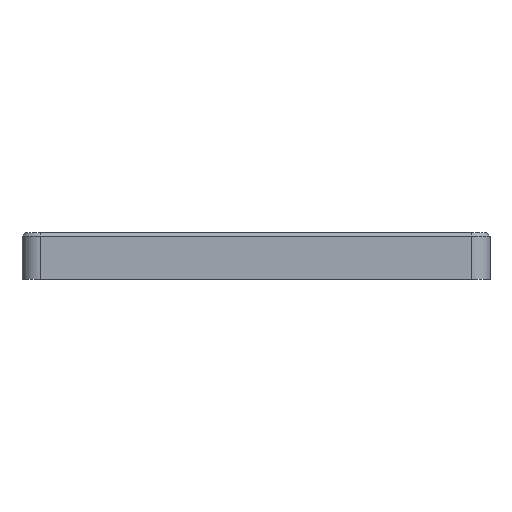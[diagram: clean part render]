
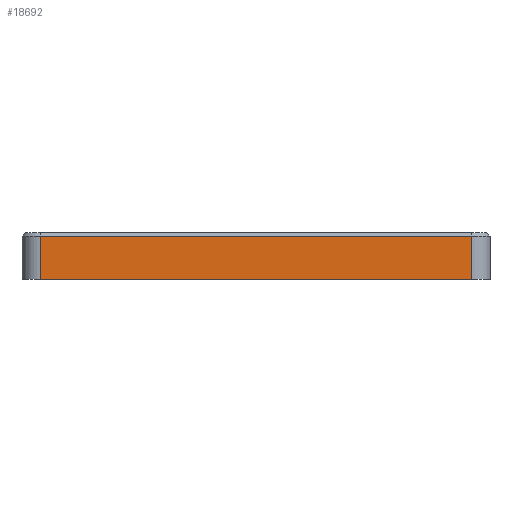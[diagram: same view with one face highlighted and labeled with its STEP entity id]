
A CAD part, front view. The second image highlights one B-rep face of the part: STEP entity #18692.
In plain terms, the highlighted planar face has unit normal (0, -1, 0).
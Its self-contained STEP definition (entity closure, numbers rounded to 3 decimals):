
#6688 = PLANE('',#6689);
#6689 = AXIS2_PLACEMENT_3D('',#6690,#6691,#6692);
#6690 = CARTESIAN_POINT('',(-92.,-94.25,54.25));
#6691 = DIRECTION('',(0.,0.707,-0.707));
#6692 = DIRECTION('',(-1.,-0.,-0.));
#11158 = PLANE('',#11159);
#11159 = AXIS2_PLACEMENT_3D('',#11160,#11161,#11162);
#11160 = CARTESIAN_POINT('',(0.,0.,35.));
#11161 = DIRECTION('',(0.,0.,1.));
#11162 = DIRECTION('',(1.,0.,-0.));
#12776 = VERTEX_POINT('',#12777);
#12777 = CARTESIAN_POINT('',(-92.,-95.,53.5));
#12796 = EDGE_CURVE('',#12776,#12797,#12799,.T.);
#12797 = VERTEX_POINT('',#12798);
#12798 = CARTESIAN_POINT('',(92.,-95.,53.5));
#12799 = SURFACE_CURVE('',#12800,(#12804,#12811),.PCURVE_S1.);
#12800 = LINE('',#12801,#12802);
#12801 = CARTESIAN_POINT('',(-92.,-95.,53.5));
#12802 = VECTOR('',#12803,1.);
#12803 = DIRECTION('',(1.,0.,0.));
#12804 = PCURVE('',#6688,#12805);
#12805 = DEFINITIONAL_REPRESENTATION('',(#12806),#12810);
#12806 = LINE('',#12807,#12808);
#12807 = CARTESIAN_POINT('',(-0.,-1.061));
#12808 = VECTOR('',#12809,1.);
#12809 = DIRECTION('',(-1.,0.));
#12810 = ( GEOMETRIC_REPRESENTATION_CONTEXT(2) 
PARAMETRIC_REPRESENTATION_CONTEXT() REPRESENTATION_CONTEXT('2D SPACE',''
  ) );
#12811 = PCURVE('',#12812,#12817);
#12812 = PLANE('',#12813);
#12813 = AXIS2_PLACEMENT_3D('',#12814,#12815,#12816);
#12814 = CARTESIAN_POINT('',(-100.,-95.,35.));
#12815 = DIRECTION('',(0.,1.,0.));
#12816 = DIRECTION('',(1.,0.,0.));
#12817 = DEFINITIONAL_REPRESENTATION('',(#12818),#12822);
#12818 = LINE('',#12819,#12820);
#12819 = CARTESIAN_POINT('',(8.,-18.5));
#12820 = VECTOR('',#12821,1.);
#12821 = DIRECTION('',(1.,0.));
#12822 = ( GEOMETRIC_REPRESENTATION_CONTEXT(2) 
PARAMETRIC_REPRESENTATION_CONTEXT() REPRESENTATION_CONTEXT('2D SPACE',''
  ) );
#12883 = CYLINDRICAL_SURFACE('',#12884,8.);
#12884 = AXIS2_PLACEMENT_3D('',#12885,#12886,#12887);
#12885 = CARTESIAN_POINT('',(-92.,-87.,35.));
#12886 = DIRECTION('',(0.,0.,1.));
#12887 = DIRECTION('',(0.,-1.,0.));
#12918 = CYLINDRICAL_SURFACE('',#12919,8.);
#12919 = AXIS2_PLACEMENT_3D('',#12920,#12921,#12922);
#12920 = CARTESIAN_POINT('',(92.,-87.,35.));
#12921 = DIRECTION('',(0.,0.,1.));
#12922 = DIRECTION('',(0.,-1.,0.));
#18377 = EDGE_CURVE('',#18378,#18380,#18382,.T.);
#18378 = VERTEX_POINT('',#18379);
#18379 = CARTESIAN_POINT('',(-92.,-95.,35.));
#18380 = VERTEX_POINT('',#18381);
#18381 = CARTESIAN_POINT('',(92.,-95.,35.));
#18382 = SURFACE_CURVE('',#18383,(#18387,#18394),.PCURVE_S1.);
#18383 = LINE('',#18384,#18385);
#18384 = CARTESIAN_POINT('',(-100.,-95.,35.));
#18385 = VECTOR('',#18386,1.);
#18386 = DIRECTION('',(1.,0.,0.));
#18387 = PCURVE('',#11158,#18388);
#18388 = DEFINITIONAL_REPRESENTATION('',(#18389),#18393);
#18389 = LINE('',#18390,#18391);
#18390 = CARTESIAN_POINT('',(-100.,-95.));
#18391 = VECTOR('',#18392,1.);
#18392 = DIRECTION('',(1.,0.));
#18393 = ( GEOMETRIC_REPRESENTATION_CONTEXT(2) 
PARAMETRIC_REPRESENTATION_CONTEXT() REPRESENTATION_CONTEXT('2D SPACE',''
  ) );
#18394 = PCURVE('',#12812,#18395);
#18395 = DEFINITIONAL_REPRESENTATION('',(#18396),#18400);
#18396 = LINE('',#18397,#18398);
#18397 = CARTESIAN_POINT('',(0.,0.));
#18398 = VECTOR('',#18399,1.);
#18399 = DIRECTION('',(1.,0.));
#18400 = ( GEOMETRIC_REPRESENTATION_CONTEXT(2) 
PARAMETRIC_REPRESENTATION_CONTEXT() REPRESENTATION_CONTEXT('2D SPACE',''
  ) );
#18692 = ADVANCED_FACE('',(#18693),#12812,.F.);
#18693 = FACE_BOUND('',#18694,.F.);
#18694 = EDGE_LOOP('',(#18695,#18716,#18717,#18738));
#18695 = ORIENTED_EDGE('',*,*,#18696,.T.);
#18696 = EDGE_CURVE('',#18378,#12776,#18697,.T.);
#18697 = SURFACE_CURVE('',#18698,(#18702,#18709),.PCURVE_S1.);
#18698 = LINE('',#18699,#18700);
#18699 = CARTESIAN_POINT('',(-92.,-95.,35.));
#18700 = VECTOR('',#18701,1.);
#18701 = DIRECTION('',(0.,0.,1.));
#18702 = PCURVE('',#12812,#18703);
#18703 = DEFINITIONAL_REPRESENTATION('',(#18704),#18708);
#18704 = LINE('',#18705,#18706);
#18705 = CARTESIAN_POINT('',(8.,0.));
#18706 = VECTOR('',#18707,1.);
#18707 = DIRECTION('',(0.,-1.));
#18708 = ( GEOMETRIC_REPRESENTATION_CONTEXT(2) 
PARAMETRIC_REPRESENTATION_CONTEXT() REPRESENTATION_CONTEXT('2D SPACE',''
  ) );
#18709 = PCURVE('',#12883,#18710);
#18710 = DEFINITIONAL_REPRESENTATION('',(#18711),#18715);
#18711 = LINE('',#18712,#18713);
#18712 = CARTESIAN_POINT('',(-0.,0.));
#18713 = VECTOR('',#18714,1.);
#18714 = DIRECTION('',(-0.,1.));
#18715 = ( GEOMETRIC_REPRESENTATION_CONTEXT(2) 
PARAMETRIC_REPRESENTATION_CONTEXT() REPRESENTATION_CONTEXT('2D SPACE',''
  ) );
#18716 = ORIENTED_EDGE('',*,*,#12796,.T.);
#18717 = ORIENTED_EDGE('',*,*,#18718,.F.);
#18718 = EDGE_CURVE('',#18380,#12797,#18719,.T.);
#18719 = SURFACE_CURVE('',#18720,(#18724,#18731),.PCURVE_S1.);
#18720 = LINE('',#18721,#18722);
#18721 = CARTESIAN_POINT('',(92.,-95.,35.));
#18722 = VECTOR('',#18723,1.);
#18723 = DIRECTION('',(0.,0.,1.));
#18724 = PCURVE('',#12812,#18725);
#18725 = DEFINITIONAL_REPRESENTATION('',(#18726),#18730);
#18726 = LINE('',#18727,#18728);
#18727 = CARTESIAN_POINT('',(192.,0.));
#18728 = VECTOR('',#18729,1.);
#18729 = DIRECTION('',(0.,-1.));
#18730 = ( GEOMETRIC_REPRESENTATION_CONTEXT(2) 
PARAMETRIC_REPRESENTATION_CONTEXT() REPRESENTATION_CONTEXT('2D SPACE',''
  ) );
#18731 = PCURVE('',#12918,#18732);
#18732 = DEFINITIONAL_REPRESENTATION('',(#18733),#18737);
#18733 = LINE('',#18734,#18735);
#18734 = CARTESIAN_POINT('',(0.,0.));
#18735 = VECTOR('',#18736,1.);
#18736 = DIRECTION('',(0.,1.));
#18737 = ( GEOMETRIC_REPRESENTATION_CONTEXT(2) 
PARAMETRIC_REPRESENTATION_CONTEXT() REPRESENTATION_CONTEXT('2D SPACE',''
  ) );
#18738 = ORIENTED_EDGE('',*,*,#18377,.F.);
